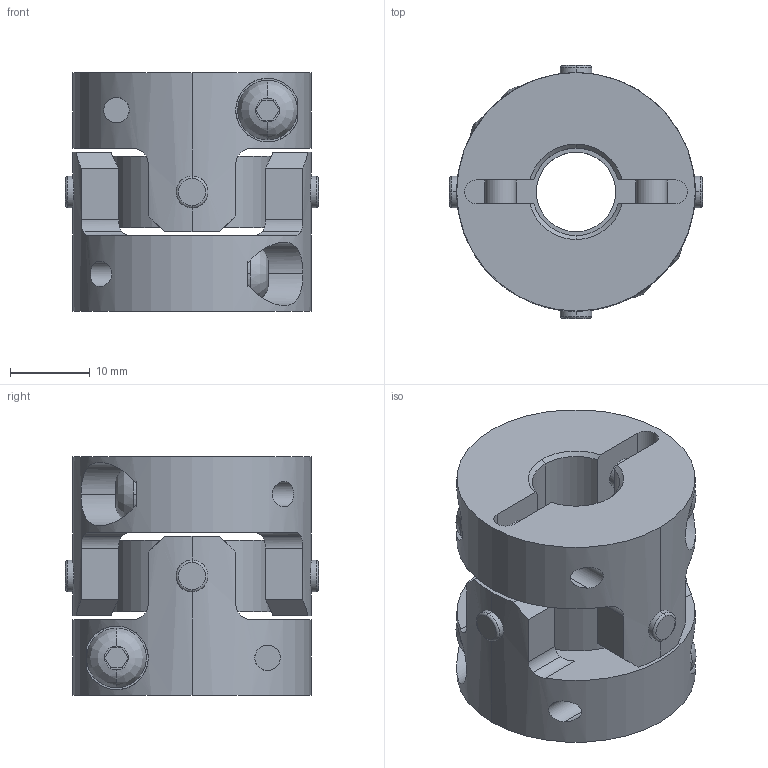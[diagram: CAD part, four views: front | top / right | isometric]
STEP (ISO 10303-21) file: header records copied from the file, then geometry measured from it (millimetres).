
FILE_DESCRIPTION((''),'2;1');
FILE_NAME('UA-30C-11×11.stp','2013-05-21T14:57:44',(''),(''),'AutoCAD STEP 2000i','AutoCAD 2000i',', , ');
FILE_SCHEMA(('CONFIG_CONTROL_DESIGN'));
Length unit declared in the file: millimetre
Products named in the file (8): UA-30C-11×11; 忣兜1; UA-3002-D11-1; BTN-M4; UA-3002-D11; UA-3002-D06-1; UA-3002-D06; UA30-SEN
Assembly tree (10 placements, depth 3):
  UA-30C-11×11
    忣兜1
    UA-3002-D11-1
      BTN-M4
    UA-3002-D11
      BTN-M4
    UA-3002-D06-1
      BTN-M4
    UA-3002-D06
      BTN-M4
    UA30-SEN
Bounding box: 31.82 x 31.82 x 30 mm (x, y, z)
Volume: 14354.6 mm3; surface area: 8540.8 mm2
Topology: 1 solids, 1 shells, 206 faces, 554 edges, 364 vertices
Faces by surface type: cylinder 96, plane 78, cone 16, bspline 8, torus 8
Entity records: 8475 total; most frequent: CARTESIAN_POINT 3119, ORIENTED_EDGE 1108, DIRECTION 1072, EDGE_CURVE 554, AXIS2_PLACEMENT_3D 413, VERTEX_POINT 364, VECTOR 246, LINE 246
